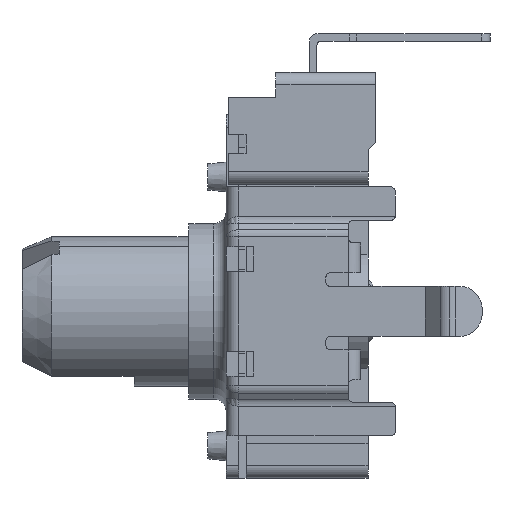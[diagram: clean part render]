
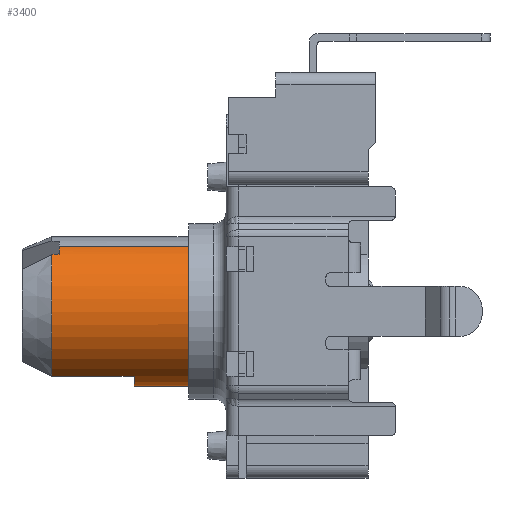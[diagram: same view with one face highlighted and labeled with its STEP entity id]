
A CAD part, left-side view. The second image highlights one B-rep face of the part: STEP entity #3400.
In plain terms, the highlighted cylindrical face has radius 3 mm (diameter 6 mm), a partial arc.
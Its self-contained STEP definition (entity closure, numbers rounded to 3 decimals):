
#245 = EDGE_CURVE ( 'NONE', #10039, #15432, #12516, .T. ) ;
#516 = DIRECTION ( 'NONE',  ( 0., 0., 1. ) ) ;
#601 = DIRECTION ( 'NONE',  ( 0., 1., 0. ) ) ;
#673 = ORIENTED_EDGE ( 'NONE', *, *, #245, .F. ) ;
#717 = VERTEX_POINT ( 'NONE', #7501 ) ;
#1838 = DIRECTION ( 'NONE',  ( 0., -1., 0. ) ) ;
#1841 = CARTESIAN_POINT ( 'NONE',  ( 0., 2.5, 0. ) ) ;
#2080 = DIRECTION ( 'NONE',  ( 0., -1., 0. ) ) ;
#2138 = DIRECTION ( 'NONE',  ( 0., 0., 1. ) ) ;
#2173 = FACE_OUTER_BOUND ( 'NONE', #13735, .T. ) ;
#3033 = DIRECTION ( 'NONE',  ( 0., -1., 0. ) ) ;
#3115 = EDGE_CURVE ( 'NONE', #717, #15432, #12528, .T. ) ;
#3246 = VERTEX_POINT ( 'NONE', #9690 ) ;
#3400 = ADVANCED_FACE ( 'NONE', ( #2173 ), #9779, .T. ) ;
#4501 = ORIENTED_EDGE ( 'NONE', *, *, #12681, .F. ) ;
#4521 = CARTESIAN_POINT ( 'NONE',  ( 0.517, 9.9, -2.955 ) ) ;
#4533 = ORIENTED_EDGE ( 'NONE', *, *, #10622, .F. ) ;
#4964 = ORIENTED_EDGE ( 'NONE', *, *, #10193, .F. ) ;
#5280 = AXIS2_PLACEMENT_3D ( 'NONE', #11599, #7489, #11691 ) ;
#5712 = CARTESIAN_POINT ( 'NONE',  ( 2.598, 10.1, 1.5 ) ) ;
#5800 = CARTESIAN_POINT ( 'NONE',  ( 0., 6.8, 3. ) ) ;
#5912 = CARTESIAN_POINT ( 'NONE',  ( 0.533, 10., -2.952 ) ) ;
#6359 = ORIENTED_EDGE ( 'NONE', *, *, #12575, .F. ) ;
#6515 = CIRCLE ( 'NONE', #12106, 3. ) ;
#6904 = LINE ( 'NONE', #13765, #13330 ) ;
#7156 = DIRECTION ( 'NONE',  ( 0., 1., 0. ) ) ;
#7246 = CARTESIAN_POINT ( 'NONE',  ( 0., 10.1, 0. ) ) ;
#7364 = VERTEX_POINT ( 'NONE', #5800 ) ;
#7489 = DIRECTION ( 'NONE',  ( 0., 1., 0. ) ) ;
#7501 = CARTESIAN_POINT ( 'NONE',  ( 0., 2.5, 3. ) ) ;
#8342 = ORIENTED_EDGE ( 'NONE', *, *, #14359, .T. ) ;
#8420 = VERTEX_POINT ( 'NONE', #13715 ) ;
#8716 = CARTESIAN_POINT ( 'NONE',  ( 0., 6.8, 0. ) ) ;
#9391 = ORIENTED_EDGE ( 'NONE', *, *, #3115, .T. ) ;
#9599 = CARTESIAN_POINT ( 'NONE',  ( 0., 10.1, -3. ) ) ;
#9690 = CARTESIAN_POINT ( 'NONE',  ( 0.5, 9.8, -2.958 ) ) ;
#9779 = CYLINDRICAL_SURFACE ( 'NONE', #15877, 3. ) ;
#10039 = VERTEX_POINT ( 'NONE', #10718 ) ;
#10047 = LINE ( 'NONE', #16456, #13019 ) ;
#10193 = EDGE_CURVE ( 'NONE', #7364, #8420, #6515, .T. ) ;
#10443 =( BOUNDED_CURVE ( )  B_SPLINE_CURVE ( 3, ( #13927, #5912, #4521, #12683 ),
 .UNSPECIFIED., .F., .F. ) 
 B_SPLINE_CURVE_WITH_KNOTS ( ( 4, 4 ),
 ( 4.528, 4.545 ),
 .UNSPECIFIED. ) 
 CURVE ( )  GEOMETRIC_REPRESENTATION_ITEM ( )  RATIONAL_B_SPLINE_CURVE ( ( 1., 1., 1., 1. ) ) 
 REPRESENTATION_ITEM ( '' )  );
#10527 = CARTESIAN_POINT ( 'NONE',  ( 0., 2.5, -3. ) ) ;
#10622 = EDGE_CURVE ( 'NONE', #16798, #15514, #14131, .T. ) ;
#10718 = CARTESIAN_POINT ( 'NONE',  ( 0., 9.8, -3. ) ) ;
#10729 = ORIENTED_EDGE ( 'NONE', *, *, #16925, .F. ) ;
#10796 = CARTESIAN_POINT ( 'NONE',  ( 0., 10.1, 0. ) ) ;
#10855 = CARTESIAN_POINT ( 'NONE',  ( 0.55, 10.1, -2.949 ) ) ;
#11280 = DIRECTION ( 'NONE',  ( 0., 0., -1. ) ) ;
#11599 = CARTESIAN_POINT ( 'NONE',  ( 0., 9.8, 0. ) ) ;
#11691 = DIRECTION ( 'NONE',  ( 0., 0., -1. ) ) ;
#12106 = AXIS2_PLACEMENT_3D ( 'NONE', #8716, #13989, #2138 ) ;
#12516 = LINE ( 'NONE', #9599, #14025 ) ;
#12528 = CIRCLE ( 'NONE', #13338, 3. ) ;
#12575 = EDGE_CURVE ( 'NONE', #15514, #3246, #10443, .T. ) ;
#12681 = EDGE_CURVE ( 'NONE', #8420, #16798, #10047, .T. ) ;
#12683 = CARTESIAN_POINT ( 'NONE',  ( 0.5, 9.8, -2.958 ) ) ;
#12882 = CIRCLE ( 'NONE', #5280, 3. ) ;
#13019 = VECTOR ( 'NONE', #7156, 1000. ) ;
#13262 = DIRECTION ( 'NONE',  ( 0., 1., 0. ) ) ;
#13330 = VECTOR ( 'NONE', #1838, 1000. ) ;
#13338 = AXIS2_PLACEMENT_3D ( 'NONE', #1841, #601, #516 ) ;
#13541 = AXIS2_PLACEMENT_3D ( 'NONE', #10796, #13262, #16153 ) ;
#13715 = CARTESIAN_POINT ( 'NONE',  ( 2.598, 6.8, 1.5 ) ) ;
#13735 = EDGE_LOOP ( 'NONE', ( #4964, #8342, #9391, #673, #10729, #6359, #4533, #4501 ) ) ;
#13765 = CARTESIAN_POINT ( 'NONE',  ( 0., 10.1, 3. ) ) ;
#13927 = CARTESIAN_POINT ( 'NONE',  ( 0.55, 10.1, -2.949 ) ) ;
#13989 = DIRECTION ( 'NONE',  ( 0., 1., 0. ) ) ;
#14025 = VECTOR ( 'NONE', #3033, 1000. ) ;
#14131 = CIRCLE ( 'NONE', #13541, 3. ) ;
#14359 = EDGE_CURVE ( 'NONE', #7364, #717, #6904, .T. ) ;
#15432 = VERTEX_POINT ( 'NONE', #10527 ) ;
#15514 = VERTEX_POINT ( 'NONE', #10855 ) ;
#15877 = AXIS2_PLACEMENT_3D ( 'NONE', #7246, #2080, #11280 ) ;
#16153 = DIRECTION ( 'NONE',  ( 0., 0., 1. ) ) ;
#16456 = CARTESIAN_POINT ( 'NONE',  ( 2.598, 6.8, 1.5 ) ) ;
#16798 = VERTEX_POINT ( 'NONE', #5712 ) ;
#16925 = EDGE_CURVE ( 'NONE', #3246, #10039, #12882, .T. ) ;
